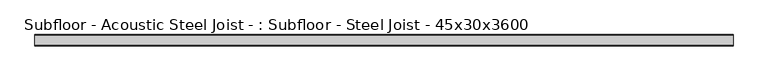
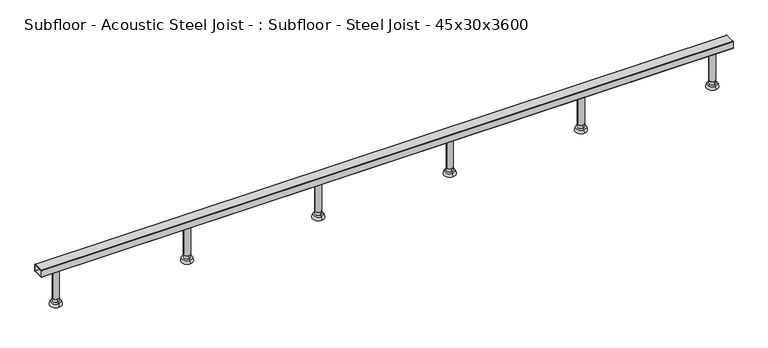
"""IFC4 building model written with IfcOpenShell, lengths in millimetres: beam geometry, Subfloor - Acoustic Steel Joist - : Subfloor - Steel Joist - 45x30x3600."""

from ifc_helpers import new_model, si_unit, point, frame, frame_2d, origin, place, context, project, spatial, polyline, circle_curve, trimmed, segment, composite_curve, outline, extrude, source, transform, mapped, element, save
from ifc_brep_helpers import plane_surface, cylinder_surface, revolved_surface, advanced_brep


def subfloor_acoustic_steel_joist_subfloor_steel_joist_1f226e23(model_context):
    return source(origin(), model_context, "Body", "SolidModel", [
        extrude(outline(composite_curve([segment(trimmed(circle_curve(frame_2d((786.985173, 0.0)), 12.5043167), [point((774.4808562, 0.0))], [point((799.4894897, 0.0))], False, "CARTESIAN"), True, "CONTINUOUS"), segment(trimmed(circle_curve(frame_2d((786.985173, 0.0)), 12.5043167), [point((799.4894897, 0.0))], [point((774.4808562, 0.0))], False, "CARTESIAN"), True, "CONTINUOUS")], self_intersect=False)), frame((0.0, 0.0, -136.4999995), z_axis=(0.0, 0.0, 1.0), x_axis=(1.0, 0.0, 0.0)), (0.0, 0.0, 1.0), 121.4999995),
        advanced_brep(
        [(786.985173, 0.0, -165.0), (786.985173, -22.5, -165.0), (786.985173, 22.5, -165.0), (786.985173, 12.5043167, -136.4999995), (786.985173, -12.5043167, -136.4999995), (786.985173, 0.0, -136.4999995), (786.985173, 19.5414562, -152.356555), (786.985173, -19.5414562, -152.356555), (786.985173, -12.5043167, -151.0618465), (786.985173, 12.5043167, -151.0618465)],
        [
            (0, 1),
            (1, 2, circle_curve(frame((786.985173, 0.0, -165.0), z_axis=(0.0, 0.0, -1.0), x_axis=(0.0, -1.0, 0.0)), 22.5)),
            (2, 0),
            (2, 1, circle_curve(frame((786.985173, 0.0, -165.0), z_axis=(0.0, 0.0, -1.0), x_axis=(0.0, -1.0, 0.0)), 22.5)),
            (3, 4, circle_curve(frame((786.985173, 0.0, -136.4999995), z_axis=(0.0, 0.0, 1.0), x_axis=(0.0, -1.0, 0.0)), 12.5043167)),
            (4, 5),
            (5, 3),
            (4, 3, circle_curve(frame((786.985173, 0.0, -136.4999995), z_axis=(0.0, 0.0, 1.0), x_axis=(0.0, -1.0, 0.0)), 12.5043167)),
            (6, 7, circle_curve(frame((786.985173, 0.0, -152.356555), z_axis=(0.0, 0.0, 1.0), x_axis=(0.0, -1.0, 0.0)), 19.5414562)),
            (7, 8),
            (8, 9, circle_curve(frame((786.985173, 0.0, -151.0618465), z_axis=(0.0, 0.0, -1.0), x_axis=(0.0, -1.0, 0.0)), 12.5043167)),
            (9, 6),
            (7, 6, circle_curve(frame((786.985173, 0.0, -152.356555), z_axis=(0.0, 0.0, 1.0), x_axis=(0.0, -1.0, 0.0)), 19.5414562)),
            (9, 8, circle_curve(frame((786.985173, 0.0, -151.0618465), z_axis=(0.0, 0.0, -1.0), x_axis=(0.0, -1.0, 0.0)), 12.5043167)),
            (8, 4),
            (3, 9),
            (1, 7),
            (6, 2),
        ],
        [
            plane_surface(frame((786.985173, 0.0, -165.0), z_axis=(0.0, 0.0, -1.0), x_axis=(0.0, -1.0, 0.0))),
            plane_surface(frame((786.985173, 0.0, -136.4999995), z_axis=(0.0, 0.0, 1.0), x_axis=(0.0, -1.0, 0.0))),
            revolved_surface(polyline([(786.985173, -12.5043167, -151.0618465), (786.985173, -19.5414562, -152.356555)]), (786.985173, 0.0, -170.6427452), (0.0, 0.0, -1.0)),
            cylinder_surface(frame((786.985173, 0.0, -170.6427452), z_axis=(0.0, 0.0, -1.0), x_axis=(0.0, -1.0, 0.0)), 12.5043167),
            revolved_surface(polyline([(786.985173, -19.5414562, -152.356555), (786.985173, -22.5, -165.0)]), (786.985173, 0.0, -170.6427452), (0.0, 0.0, -1.0)),
        ],
        [
            (0, [[1, 2, 3]]),
            (0, [[-3, 4, -1]]),
            (1, [[5, 6, 7]]),
            (1, [[8, -7, -6]]),
            (2, [[9, 10, 11, 12]]),
            (2, [[13, -12, 14, -10]]),
            (3, [[-11, 15, -5, 16]]),
            (3, [[-14, -16, -8, -15]]),
            (4, [[-2, 17, -9, 18]]),
            (4, [[-4, -18, -13, -17]]),
        ],
    ),
        extrude(outline(composite_curve([segment(trimmed(circle_curve(frame_2d((262.328391, 0.0)), 12.5043167), [point((249.8240742, 0.0))], [point((274.8327077, 0.0))], False, "CARTESIAN"), True, "CONTINUOUS"), segment(trimmed(circle_curve(frame_2d((262.328391, 0.0)), 12.5043167), [point((274.8327077, 0.0))], [point((249.8240742, 0.0))], False, "CARTESIAN"), True, "CONTINUOUS")], self_intersect=False)), frame((0.0, 0.0, -136.4999995), z_axis=(0.0, 0.0, 1.0), x_axis=(1.0, 0.0, 0.0)), (0.0, 0.0, 1.0), 121.4999995),
        advanced_brep(
        [(262.328391, 0.0, -165.0), (262.328391, -22.5, -165.0), (262.328391, 22.5, -165.0), (262.328391, 12.5043167, -136.4999995), (262.328391, -12.5043167, -136.4999995), (262.328391, 0.0, -136.4999995), (262.328391, 19.5414562, -152.356555), (262.328391, -19.5414562, -152.356555), (262.328391, -12.5043167, -151.0618465), (262.328391, 12.5043167, -151.0618465)],
        [
            (0, 1),
            (1, 2, circle_curve(frame((262.328391, 0.0, -165.0), z_axis=(0.0, 0.0, -1.0), x_axis=(0.0, -1.0, 0.0)), 22.5)),
            (2, 0),
            (2, 1, circle_curve(frame((262.328391, 0.0, -165.0), z_axis=(0.0, 0.0, -1.0), x_axis=(0.0, -1.0, 0.0)), 22.5)),
            (3, 4, circle_curve(frame((262.328391, 0.0, -136.4999995), z_axis=(0.0, 0.0, 1.0), x_axis=(0.0, -1.0, 0.0)), 12.5043167)),
            (4, 5),
            (5, 3),
            (4, 3, circle_curve(frame((262.328391, 0.0, -136.4999995), z_axis=(0.0, 0.0, 1.0), x_axis=(0.0, -1.0, 0.0)), 12.5043167)),
            (6, 7, circle_curve(frame((262.328391, 0.0, -152.356555), z_axis=(0.0, 0.0, 1.0), x_axis=(0.0, -1.0, 0.0)), 19.5414562)),
            (7, 8),
            (8, 9, circle_curve(frame((262.328391, 0.0, -151.0618465), z_axis=(0.0, 0.0, -1.0), x_axis=(0.0, -1.0, 0.0)), 12.5043167)),
            (9, 6),
            (7, 6, circle_curve(frame((262.328391, 0.0, -152.356555), z_axis=(0.0, 0.0, 1.0), x_axis=(0.0, -1.0, 0.0)), 19.5414562)),
            (9, 8, circle_curve(frame((262.328391, 0.0, -151.0618465), z_axis=(0.0, 0.0, -1.0), x_axis=(0.0, -1.0, 0.0)), 12.5043167)),
            (8, 4),
            (3, 9),
            (1, 7),
            (6, 2),
        ],
        [
            plane_surface(frame((262.328391, 0.0, -165.0), z_axis=(0.0, 0.0, -1.0), x_axis=(0.0, -1.0, 0.0))),
            plane_surface(frame((262.328391, 0.0, -136.4999995), z_axis=(0.0, 0.0, 1.0), x_axis=(0.0, -1.0, 0.0))),
            revolved_surface(polyline([(262.328391, -12.5043167, -151.0618465), (262.328391, -19.5414562, -152.356555)]), (262.328391, 0.0, -170.6427452), (0.0, 0.0, -1.0)),
            cylinder_surface(frame((262.328391, 0.0, -170.6427452), z_axis=(0.0, 0.0, -1.0), x_axis=(0.0, -1.0, 0.0)), 12.5043167),
            revolved_surface(polyline([(262.328391, -19.5414562, -152.356555), (262.328391, -22.5, -165.0)]), (262.328391, 0.0, -170.6427452), (0.0, 0.0, -1.0)),
        ],
        [
            (0, [[1, 2, 3]]),
            (0, [[-3, 4, -1]]),
            (1, [[5, 6, 7]]),
            (1, [[8, -7, -6]]),
            (2, [[9, 10, 11, 12]]),
            (2, [[13, -12, 14, -10]]),
            (3, [[-11, 15, -5, 16]]),
            (3, [[-14, -16, -8, -15]]),
            (4, [[-2, 17, -9, 18]]),
            (4, [[-4, -18, -13, -17]]),
        ],
    ),
        extrude(outline(composite_curve([segment(trimmed(circle_curve(frame_2d((-262.328391, 0.0)), 12.5043167), [point((-274.8327077, 0.0))], [point((-249.8240742, 0.0))], False, "CARTESIAN"), True, "CONTINUOUS"), segment(trimmed(circle_curve(frame_2d((-262.328391, 0.0)), 12.5043167), [point((-249.8240742, 0.0))], [point((-274.8327077, 0.0))], False, "CARTESIAN"), True, "CONTINUOUS")], self_intersect=False)), frame((0.0, 0.0, -136.4999995), z_axis=(0.0, 0.0, 1.0), x_axis=(1.0, 0.0, 0.0)), (0.0, 0.0, 1.0), 121.4999995),
        advanced_brep(
        [(-262.328391, 0.0, -165.0), (-262.328391, -22.5, -165.0), (-262.328391, 22.5, -165.0), (-262.328391, 12.5043167, -136.4999995), (-262.328391, -12.5043167, -136.4999995), (-262.328391, 0.0, -136.4999995), (-262.328391, 19.5414562, -152.356555), (-262.328391, -19.5414562, -152.356555), (-262.328391, -12.5043167, -151.0618465), (-262.328391, 12.5043167, -151.0618465)],
        [
            (0, 1),
            (1, 2, circle_curve(frame((-262.328391, 0.0, -165.0), z_axis=(0.0, 0.0, -1.0), x_axis=(0.0, -1.0, 0.0)), 22.5)),
            (2, 0),
            (2, 1, circle_curve(frame((-262.328391, 0.0, -165.0), z_axis=(0.0, 0.0, -1.0), x_axis=(0.0, -1.0, 0.0)), 22.5)),
            (3, 4, circle_curve(frame((-262.328391, 0.0, -136.4999995), z_axis=(0.0, 0.0, 1.0), x_axis=(0.0, -1.0, 0.0)), 12.5043167)),
            (4, 5),
            (5, 3),
            (4, 3, circle_curve(frame((-262.328391, 0.0, -136.4999995), z_axis=(0.0, 0.0, 1.0), x_axis=(0.0, -1.0, 0.0)), 12.5043167)),
            (6, 7, circle_curve(frame((-262.328391, 0.0, -152.356555), z_axis=(0.0, 0.0, 1.0), x_axis=(0.0, -1.0, 0.0)), 19.5414562)),
            (7, 8),
            (8, 9, circle_curve(frame((-262.328391, 0.0, -151.0618465), z_axis=(0.0, 0.0, -1.0), x_axis=(0.0, -1.0, 0.0)), 12.5043167)),
            (9, 6),
            (7, 6, circle_curve(frame((-262.328391, 0.0, -152.356555), z_axis=(0.0, 0.0, 1.0), x_axis=(0.0, -1.0, 0.0)), 19.5414562)),
            (9, 8, circle_curve(frame((-262.328391, 0.0, -151.0618465), z_axis=(0.0, 0.0, -1.0), x_axis=(0.0, -1.0, 0.0)), 12.5043167)),
            (8, 4),
            (3, 9),
            (1, 7),
            (6, 2),
        ],
        [
            plane_surface(frame((-262.328391, 0.0, -165.0), z_axis=(0.0, 0.0, -1.0), x_axis=(0.0, -1.0, 0.0))),
            plane_surface(frame((-262.328391, 0.0, -136.4999995), z_axis=(0.0, 0.0, 1.0), x_axis=(0.0, -1.0, 0.0))),
            revolved_surface(polyline([(-262.328391, -12.5043167, -151.0618465), (-262.328391, -19.5414562, -152.356555)]), (-262.328391, 0.0, -170.6427452), (0.0, 0.0, -1.0)),
            cylinder_surface(frame((-262.328391, 0.0, -170.6427452), z_axis=(0.0, 0.0, -1.0), x_axis=(0.0, -1.0, 0.0)), 12.5043167),
            revolved_surface(polyline([(-262.328391, -19.5414562, -152.356555), (-262.328391, -22.5, -165.0)]), (-262.328391, 0.0, -170.6427452), (0.0, 0.0, -1.0)),
        ],
        [
            (0, [[1, 2, 3]]),
            (0, [[-3, 4, -1]]),
            (1, [[5, 6, 7]]),
            (1, [[8, -7, -6]]),
            (2, [[9, 10, 11, 12]]),
            (2, [[13, -12, 14, -10]]),
            (3, [[-11, 15, -5, 16]]),
            (3, [[-14, -16, -8, -15]]),
            (4, [[-2, 17, -9, 18]]),
            (4, [[-4, -18, -13, -17]]),
        ],
    ),
        extrude(outline(composite_curve([segment(trimmed(circle_curve(frame_2d((-786.985173, 0.0)), 12.5043167), [point((-799.4894897, 0.0))], [point((-774.4808562, 0.0))], False, "CARTESIAN"), True, "CONTINUOUS"), segment(trimmed(circle_curve(frame_2d((-786.985173, 0.0)), 12.5043167), [point((-774.4808562, 0.0))], [point((-799.4894897, 0.0))], False, "CARTESIAN"), True, "CONTINUOUS")], self_intersect=False)), frame((0.0, 0.0, -136.4999995), z_axis=(0.0, 0.0, 1.0), x_axis=(1.0, 0.0, 0.0)), (0.0, 0.0, 1.0), 121.4999995),
        advanced_brep(
        [(-786.985173, 0.0, -165.0), (-786.985173, -22.5, -165.0), (-786.985173, 22.5, -165.0), (-786.985173, 12.5043167, -136.4999995), (-786.985173, -12.5043167, -136.4999995), (-786.985173, 0.0, -136.4999995), (-786.985173, 19.5414562, -152.356555), (-786.985173, -19.5414562, -152.356555), (-786.985173, -12.5043167, -151.0618465), (-786.985173, 12.5043167, -151.0618465)],
        [
            (0, 1),
            (1, 2, circle_curve(frame((-786.985173, 0.0, -165.0), z_axis=(0.0, 0.0, -1.0), x_axis=(0.0, -1.0, 0.0)), 22.5)),
            (2, 0),
            (2, 1, circle_curve(frame((-786.985173, 0.0, -165.0), z_axis=(0.0, 0.0, -1.0), x_axis=(0.0, -1.0, 0.0)), 22.5)),
            (3, 4, circle_curve(frame((-786.985173, 0.0, -136.4999995), z_axis=(0.0, 0.0, 1.0), x_axis=(0.0, -1.0, 0.0)), 12.5043167)),
            (4, 5),
            (5, 3),
            (4, 3, circle_curve(frame((-786.985173, 0.0, -136.4999995), z_axis=(0.0, 0.0, 1.0), x_axis=(0.0, -1.0, 0.0)), 12.5043167)),
            (6, 7, circle_curve(frame((-786.985173, 0.0, -152.356555), z_axis=(0.0, 0.0, 1.0), x_axis=(0.0, -1.0, 0.0)), 19.5414562)),
            (7, 8),
            (8, 9, circle_curve(frame((-786.985173, 0.0, -151.0618465), z_axis=(0.0, 0.0, -1.0), x_axis=(0.0, -1.0, 0.0)), 12.5043167)),
            (9, 6),
            (7, 6, circle_curve(frame((-786.985173, 0.0, -152.356555), z_axis=(0.0, 0.0, 1.0), x_axis=(0.0, -1.0, 0.0)), 19.5414562)),
            (9, 8, circle_curve(frame((-786.985173, 0.0, -151.0618465), z_axis=(0.0, 0.0, -1.0), x_axis=(0.0, -1.0, 0.0)), 12.5043167)),
            (8, 4),
            (3, 9),
            (1, 7),
            (6, 2),
        ],
        [
            plane_surface(frame((-786.985173, 0.0, -165.0), z_axis=(0.0, 0.0, -1.0), x_axis=(0.0, -1.0, 0.0))),
            plane_surface(frame((-786.985173, 0.0, -136.4999995), z_axis=(0.0, 0.0, 1.0), x_axis=(0.0, -1.0, 0.0))),
            revolved_surface(polyline([(-786.985173, -12.5043167, -151.0618465), (-786.985173, -19.5414562, -152.356555)]), (-786.985173, 0.0, -170.6427452), (0.0, 0.0, -1.0)),
            cylinder_surface(frame((-786.985173, 0.0, -170.6427452), z_axis=(0.0, 0.0, -1.0), x_axis=(0.0, -1.0, 0.0)), 12.5043167),
            revolved_surface(polyline([(-786.985173, -19.5414562, -152.356555), (-786.985173, -22.5, -165.0)]), (-786.985173, 0.0, -170.6427452), (0.0, 0.0, -1.0)),
        ],
        [
            (0, [[1, 2, 3]]),
            (0, [[-3, 4, -1]]),
            (1, [[5, 6, 7]]),
            (1, [[8, -7, -6]]),
            (2, [[9, 10, 11, 12]]),
            (2, [[13, -12, 14, -10]]),
            (3, [[-11, 15, -5, 16]]),
            (3, [[-14, -16, -8, -15]]),
            (4, [[-2, 17, -9, 18]]),
            (4, [[-4, -18, -13, -17]]),
        ],
    ),
        extrude(outline(composite_curve([segment(trimmed(circle_curve(frame_2d((1311.641955, 0.0)), 12.5043167), [point((1299.1376382, 0.0))], [point((1324.1462717, 0.0))], False, "CARTESIAN"), True, "CONTINUOUS"), segment(trimmed(circle_curve(frame_2d((1311.641955, 0.0)), 12.5043167), [point((1324.1462717, 0.0))], [point((1299.1376382, 0.0))], False, "CARTESIAN"), True, "CONTINUOUS")], self_intersect=False)), frame((0.0, 0.0, -136.4999995), z_axis=(0.0, 0.0, 1.0), x_axis=(1.0, 0.0, 0.0)), (0.0, 0.0, 1.0), 121.4999995),
        advanced_brep(
        [(1311.641955, 0.0, -165.0), (1311.641955, -22.5, -165.0), (1311.641955, 22.5, -165.0), (1311.641955, 12.5043167, -136.4999995), (1311.641955, -12.5043167, -136.4999995), (1311.641955, 0.0, -136.4999995), (1311.641955, 19.5414562, -152.356555), (1311.641955, -19.5414562, -152.356555), (1311.641955, -12.5043167, -151.0618465), (1311.641955, 12.5043167, -151.0618465)],
        [
            (0, 1),
            (1, 2, circle_curve(frame((1311.641955, 0.0, -165.0), z_axis=(0.0, 0.0, -1.0), x_axis=(0.0, -1.0, 0.0)), 22.5)),
            (2, 0),
            (2, 1, circle_curve(frame((1311.641955, 0.0, -165.0), z_axis=(0.0, 0.0, -1.0), x_axis=(0.0, -1.0, 0.0)), 22.5)),
            (3, 4, circle_curve(frame((1311.641955, 0.0, -136.4999995), z_axis=(0.0, 0.0, 1.0), x_axis=(0.0, -1.0, 0.0)), 12.5043167)),
            (4, 5),
            (5, 3),
            (4, 3, circle_curve(frame((1311.641955, 0.0, -136.4999995), z_axis=(0.0, 0.0, 1.0), x_axis=(0.0, -1.0, 0.0)), 12.5043167)),
            (6, 7, circle_curve(frame((1311.641955, 0.0, -152.356555), z_axis=(0.0, 0.0, 1.0), x_axis=(0.0, -1.0, 0.0)), 19.5414562)),
            (7, 8),
            (8, 9, circle_curve(frame((1311.641955, 0.0, -151.0618465), z_axis=(0.0, 0.0, -1.0), x_axis=(0.0, -1.0, 0.0)), 12.5043167)),
            (9, 6),
            (7, 6, circle_curve(frame((1311.641955, 0.0, -152.356555), z_axis=(0.0, 0.0, 1.0), x_axis=(0.0, -1.0, 0.0)), 19.5414562)),
            (9, 8, circle_curve(frame((1311.641955, 0.0, -151.0618465), z_axis=(0.0, 0.0, -1.0), x_axis=(0.0, -1.0, 0.0)), 12.5043167)),
            (8, 4),
            (3, 9),
            (1, 7),
            (6, 2),
        ],
        [
            plane_surface(frame((1311.641955, 0.0, -165.0), z_axis=(0.0, 0.0, -1.0), x_axis=(0.0, -1.0, 0.0))),
            plane_surface(frame((1311.641955, 0.0, -136.4999995), z_axis=(0.0, 0.0, 1.0), x_axis=(0.0, -1.0, 0.0))),
            revolved_surface(polyline([(1311.641955, -12.5043167, -151.0618465), (1311.641955, -19.5414562, -152.356555)]), (1311.641955, 0.0, -170.6427452), (0.0, 0.0, -1.0)),
            cylinder_surface(frame((1311.641955, 0.0, -170.6427452), z_axis=(0.0, 0.0, -1.0), x_axis=(0.0, -1.0, 0.0)), 12.5043167),
            revolved_surface(polyline([(1311.641955, -19.5414562, -152.356555), (1311.641955, -22.5, -165.0)]), (1311.641955, 0.0, -170.6427452), (0.0, 0.0, -1.0)),
        ],
        [
            (0, [[1, 2, 3]]),
            (0, [[-3, 4, -1]]),
            (1, [[5, 6, 7]]),
            (1, [[8, -7, -6]]),
            (2, [[9, 10, 11, 12]]),
            (2, [[13, -12, 14, -10]]),
            (3, [[-11, 15, -5, 16]]),
            (3, [[-14, -16, -8, -15]]),
            (4, [[-2, 17, -9, 18]]),
            (4, [[-4, -18, -13, -17]]),
        ],
    ),
        extrude(outline(composite_curve([segment(trimmed(circle_curve(frame_2d((-1311.641955, 0.0)), 12.5043167), [point((-1324.1462717, 0.0))], [point((-1299.1376382, 0.0))], False, "CARTESIAN"), True, "CONTINUOUS"), segment(trimmed(circle_curve(frame_2d((-1311.641955, 0.0)), 12.5043167), [point((-1299.1376382, 0.0))], [point((-1324.1462717, 0.0))], False, "CARTESIAN"), True, "CONTINUOUS")], self_intersect=False)), frame((0.0, 0.0, -136.4999995), z_axis=(0.0, 0.0, 1.0), x_axis=(1.0, 0.0, 0.0)), (0.0, 0.0, 1.0), 121.4999995),
        advanced_brep(
        [(-1311.641955, 0.0, -165.0), (-1311.641955, -22.5, -165.0), (-1311.641955, 22.5, -165.0), (-1311.641955, 12.5043167, -136.4999995), (-1311.641955, -12.5043167, -136.4999995), (-1311.641955, 0.0, -136.4999995), (-1311.641955, 19.5414562, -152.356555), (-1311.641955, -19.5414562, -152.356555), (-1311.641955, -12.5043167, -151.0618465), (-1311.641955, 12.5043167, -151.0618465)],
        [
            (0, 1),
            (1, 2, circle_curve(frame((-1311.641955, 0.0, -165.0), z_axis=(0.0, 0.0, -1.0), x_axis=(0.0, -1.0, 0.0)), 22.5)),
            (2, 0),
            (2, 1, circle_curve(frame((-1311.641955, 0.0, -165.0), z_axis=(0.0, 0.0, -1.0), x_axis=(0.0, -1.0, 0.0)), 22.5)),
            (3, 4, circle_curve(frame((-1311.641955, 0.0, -136.4999995), z_axis=(0.0, 0.0, 1.0), x_axis=(0.0, -1.0, 0.0)), 12.5043167)),
            (4, 5),
            (5, 3),
            (4, 3, circle_curve(frame((-1311.641955, 0.0, -136.4999995), z_axis=(0.0, 0.0, 1.0), x_axis=(0.0, -1.0, 0.0)), 12.5043167)),
            (6, 7, circle_curve(frame((-1311.641955, 0.0, -152.356555), z_axis=(0.0, 0.0, 1.0), x_axis=(0.0, -1.0, 0.0)), 19.5414562)),
            (7, 8),
            (8, 9, circle_curve(frame((-1311.641955, 0.0, -151.0618465), z_axis=(0.0, 0.0, -1.0), x_axis=(0.0, -1.0, 0.0)), 12.5043167)),
            (9, 6),
            (7, 6, circle_curve(frame((-1311.641955, 0.0, -152.356555), z_axis=(0.0, 0.0, 1.0), x_axis=(0.0, -1.0, 0.0)), 19.5414562)),
            (9, 8, circle_curve(frame((-1311.641955, 0.0, -151.0618465), z_axis=(0.0, 0.0, -1.0), x_axis=(0.0, -1.0, 0.0)), 12.5043167)),
            (8, 4),
            (3, 9),
            (1, 7),
            (6, 2),
        ],
        [
            plane_surface(frame((-1311.641955, 0.0, -165.0), z_axis=(0.0, 0.0, -1.0), x_axis=(0.0, -1.0, 0.0))),
            plane_surface(frame((-1311.641955, 0.0, -136.4999995), z_axis=(0.0, 0.0, 1.0), x_axis=(0.0, -1.0, 0.0))),
            revolved_surface(polyline([(-1311.641955, -12.5043167, -151.0618465), (-1311.641955, -19.5414562, -152.356555)]), (-1311.641955, 0.0, -170.6427452), (0.0, 0.0, -1.0)),
            cylinder_surface(frame((-1311.641955, 0.0, -170.6427452), z_axis=(0.0, 0.0, -1.0), x_axis=(0.0, -1.0, 0.0)), 12.5043167),
            revolved_surface(polyline([(-1311.641955, -19.5414562, -152.356555), (-1311.641955, -22.5, -165.0)]), (-1311.641955, 0.0, -170.6427452), (0.0, 0.0, -1.0)),
        ],
        [
            (0, [[1, 2, 3]]),
            (0, [[-3, 4, -1]]),
            (1, [[5, 6, 7]]),
            (1, [[8, -7, -6]]),
            (2, [[9, 10, 11, 12]]),
            (2, [[13, -12, 14, -10]]),
            (3, [[-11, 15, -5, 16]]),
            (3, [[-14, -16, -8, -15]]),
            (4, [[-2, 17, -9, 18]]),
            (4, [[-4, -18, -13, -17]]),
        ],
    ),
        extrude(outline(composite_curve([segment(polyline([(-20.5, 15.0), (20.5, 15.0)]), True, "CONTINUOUS"), segment(trimmed(circle_curve(frame_2d((20.5, 13.0)), 2.0), [point((20.5, 15.0))], [point((22.5, 13.0))], False, "CARTESIAN"), True, "CONTINUOUS"), segment(polyline([(22.5, 13.0), (22.5, -13.0)]), True, "CONTINUOUS"), segment(trimmed(circle_curve(frame_2d((20.5, -13.0)), 2.0), [point((22.5, -13.0))], [point((20.5, -15.0))], False, "CARTESIAN"), True, "CONTINUOUS"), segment(polyline([(20.5, -15.0), (-20.5, -15.0)]), True, "CONTINUOUS"), segment(trimmed(circle_curve(frame_2d((-20.5, -13.0)), 2.0), [point((-20.5, -15.0))], [point((-22.5, -13.0))], False, "CARTESIAN"), True, "CONTINUOUS"), segment(polyline([(-22.5, -13.0), (-22.5, 13.0)]), True, "CONTINUOUS"), segment(trimmed(circle_curve(frame_2d((-20.5, 13.0)), 2.0), [point((-22.5, 13.0))], [point((-20.5, 15.0))], False, "CARTESIAN"), True, "CONTINUOUS")], self_intersect=False), holes=[polyline([(-19.5, 12.0), (-19.5, -12.0), (19.5, -12.0), (19.5, 12.0), (-19.5, 12.0)])]), frame((-1381.641955, 0.0, 0.0), z_axis=(1.0, 0.0, 0.0), x_axis=(0.0, 1.0, 0.0)), (0.0, 0.0, 1.0), 2763.28391),
    ])


if __name__ == "__main__":
    model = new_model("IFC4")
    model_context = context("Model", 3, world=origin())
    ifc_project = project(units=[si_unit("LENGTHUNIT", "METRE", prefix="MILLI")], contexts=[model_context])
    site = spatial("IfcSite", under=ifc_project)
    building = spatial("IfcBuilding", under=site)
    placement = place(None, origin())
    subfloor_acoustic_steel_joist_subfloor_steel_joist_shape = subfloor_acoustic_steel_joist_subfloor_steel_joist_1f226e23(model_context)
    element("IfcBeam", 1, ObjectType="Subfloor - Acoustic Steel Joist - : Subfloor - Steel Joist - 45x30x3600", at=placement, inside=building, context=model_context, shape_type="MappedRepresentation", body=[
        mapped(subfloor_acoustic_steel_joist_subfloor_steel_joist_shape, transform((0.0, 0.0, 0.0), x_axis=(1.0, 0.0, 0.0), y_axis=(0.0, 1.0, 0.0), z_axis=(0.0, 0.0, 1.0))),
    ])
    save(model, "model.ifc")
